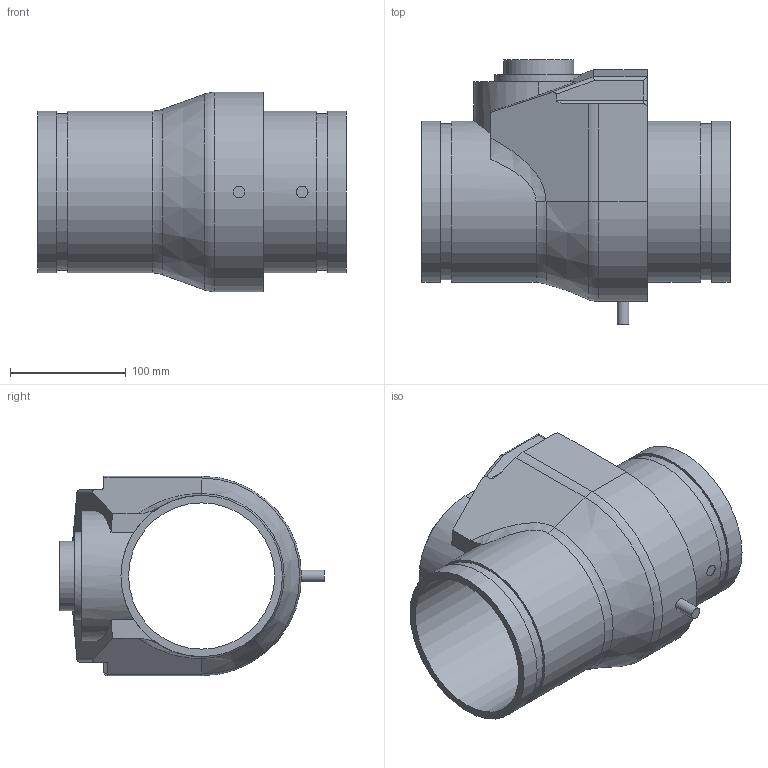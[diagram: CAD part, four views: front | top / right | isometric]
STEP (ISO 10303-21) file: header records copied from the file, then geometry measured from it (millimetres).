
FILE_DESCRIPTION(/* description */ ('VIC FIRELOCK CHECK VALVE SERIES 717','CAx-IF Rec.Pracs.---Representation and Presentation of Product Manufacturing Information (PMI)---4.0---2014-10-13'),/* implementation_level */ '2;1');
FILE_NAME(/* name */ 'C:\Users\Vjadhav\AppData\Roaming\Autodesk\ApplicationPlugins\Back Up\Victaulic_FP-FireLock_Valve Check_Series 717 (OGS)\Victaulic_FP-FireLock_Valve Check_05.0 (139.7) (125).stp',/* time_stamp */ '2020-07-17T15:00:39+06:00',/* author */ ('kkamble'),/* organization */ ('Victaulic'),/* preprocessor_version */ 'ST-DEVELOPER v17.2',/* originating_system */ 'Autodesk Inventor 2019',/* authorisation */ '');
FILE_SCHEMA (('AP242_MANAGED_MODEL_BASED_3D_ENGINEERING_MIM_LF { 1 0 10303 442 1 1 4 }'));
Length unit declared in the file: inch
Products named in the file (2): 717-05.0 (139.7); 717 - 05.0 (139.7)
Assembly tree (1 placements, depth 2):
  717-05.0 (139.7)
    717 - 05.0 (139.7)
Bounding box: 266.7 x 228.6 x 172.72 mm (x, y, z)
Volume: 2198400.4 mm3; surface area: 279644.2 mm2
Topology: 2 solids, 2 shells, 64 faces, 157 edges, 103 vertices
Faces by surface type: plane 30, cylinder 27, torus 4, bspline 2, cone 1
Full cylindrical faces by diameter (mm): 10.16 x1, 60.325 x1, 126.594 x1, 135.484 x2, 139.7 x4
Entity records: 2183 total; most frequent: CARTESIAN_POINT 451, DIRECTION 365, ORIENTED_EDGE 316, EDGE_CURVE 158, AXIS2_PLACEMENT_3D 146, VERTEX_POINT 105, EDGE_LOOP 73, LINE 73
